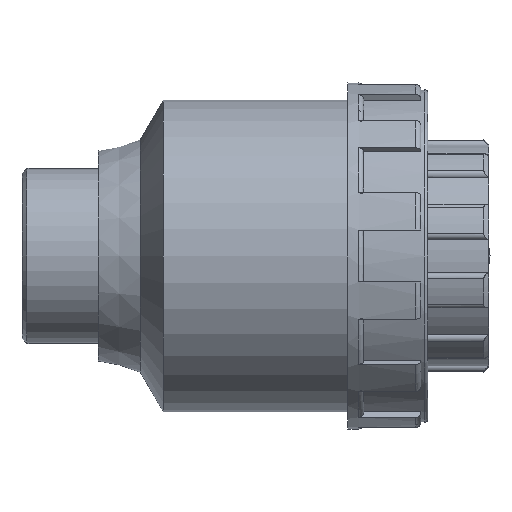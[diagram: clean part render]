
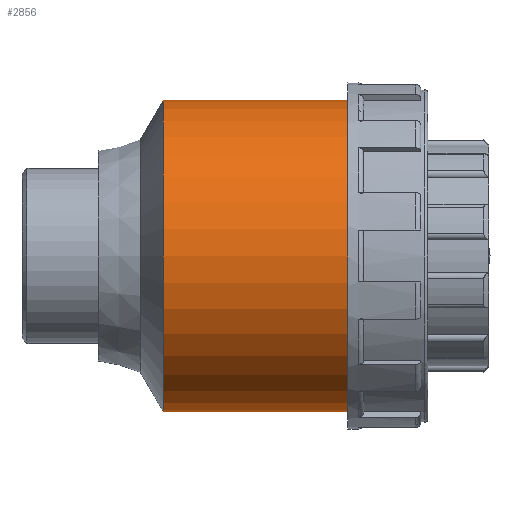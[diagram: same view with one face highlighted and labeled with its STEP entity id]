
A CAD part, front view. The second image highlights one B-rep face of the part: STEP entity #2856.
In plain terms, the highlighted cylindrical face has radius 53.1 mm (diameter 106.2 mm), a full revolution.
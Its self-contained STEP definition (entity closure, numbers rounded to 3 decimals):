
#35=FACE_BOUND('',#506,.T.);
#36=FACE_BOUND('',#507,.T.);
#317=FACE_OUTER_BOUND('',#505,.T.);
#505=EDGE_LOOP('',(#2627));
#506=EDGE_LOOP('',(#2628));
#507=EDGE_LOOP('',(#2629));
#699=CIRCLE('',#3209,53.1);
#700=CIRCLE('',#3211,53.1);
#1051=B_SPLINE_CURVE_WITH_KNOTS('',3,(#4692,#4693,#4694,#4695,#4696,#4697,
#4698,#4699,#4700,#4701,#4702,#4703,#4704,#4705,#4706,#4707,#4708,#4709,
#4710,#4711,#4712,#4713,#4714,#4715,#4716,#4717,#4718,#4719,#4720,#4721,
#4722,#4723,#4724,#4725,#4726,#4727,#4728,#4729,#4730,#4731,#4732,#4733,
#4734,#4735,#4736,#4737,#4738,#4739,#4740,#4741,#4742,#4743,#4744,#4745,
#4746,#4747,#4748,#4749,#4750,#4751,#4752,#4753,#4754,#4755,#4756,#4757),
 .UNSPECIFIED.,.T.,.F.,(4,2,2,2,2,2,2,2,2,2,2,2,2,2,2,2,2,2,2,2,2,2,2,2,
2,2,2,2,2,2,2,2,4),(0.,0.336,0.672,1.009,
1.345,1.681,2.017,2.353,2.689,
3.025,3.362,3.698,4.034,4.37,
4.706,5.042,5.379,5.715,6.051,
6.387,6.724,7.06,7.396,7.732,
8.068,8.404,8.74,9.076,9.412,
9.749,10.085,10.421,10.757),
 .UNSPECIFIED.);
#1215=VERTEX_POINT('',#4691);
#1374=VERTEX_POINT('',#5665);
#1375=VERTEX_POINT('',#5668);
#1563=EDGE_CURVE('',#1215,#1215,#1051,.T.);
#1794=EDGE_CURVE('',#1374,#1374,#699,.T.);
#1795=EDGE_CURVE('',#1375,#1375,#700,.T.);
#2627=ORIENTED_EDGE('',*,*,#1795,.F.);
#2628=ORIENTED_EDGE('',*,*,#1563,.T.);
#2629=ORIENTED_EDGE('',*,*,#1794,.T.);
#2691=CYLINDRICAL_SURFACE('',#3210,53.1);
#2856=ADVANCED_FACE('',(#317,#35,#36),#2691,.T.);
#3209=AXIS2_PLACEMENT_3D('',#5666,#4076,#4077);
#3210=AXIS2_PLACEMENT_3D('',#5667,#4078,#4079);
#3211=AXIS2_PLACEMENT_3D('',#5669,#4080,#4081);
#4076=DIRECTION('center_axis',(1.,0.,0.));
#4077=DIRECTION('ref_axis',(0.,0.,-1.));
#4078=DIRECTION('center_axis',(1.,0.,0.));
#4079=DIRECTION('ref_axis',(0.,1.,0.));
#4080=DIRECTION('center_axis',(1.,0.,0.));
#4081=DIRECTION('ref_axis',(0.,0.,-1.));
#4691=CARTESIAN_POINT('',(0.,50.063,-17.7));
#4692=CARTESIAN_POINT('Ctrl Pts',(0.,50.063,-17.7));
#4693=CARTESIAN_POINT('Ctrl Pts',(1.121,50.063,-17.7));
#4694=CARTESIAN_POINT('Ctrl Pts',(2.277,50.102,-17.592));
#4695=CARTESIAN_POINT('Ctrl Pts',(4.571,50.258,-17.14));
#4696=CARTESIAN_POINT('Ctrl Pts',(5.709,50.376,-16.796));
#4697=CARTESIAN_POINT('Ctrl Pts',(7.886,50.669,-15.89));
#4698=CARTESIAN_POINT('Ctrl Pts',(8.928,50.844,-15.327));
#4699=CARTESIAN_POINT('Ctrl Pts',(10.852,51.217,-14.031));
#4700=CARTESIAN_POINT('Ctrl Pts',(11.735,51.414,-13.297));
#4701=CARTESIAN_POINT('Ctrl Pts',(13.297,51.793,-11.735));
#4702=CARTESIAN_POINT('Ctrl Pts',(14.031,51.988,-10.853));
#4703=CARTESIAN_POINT('Ctrl Pts',(15.327,52.353,-8.928));
#4704=CARTESIAN_POINT('Ctrl Pts',(15.89,52.523,-7.886));
#4705=CARTESIAN_POINT('Ctrl Pts',(16.796,52.804,-5.708));
#4706=CARTESIAN_POINT('Ctrl Pts',(17.14,52.915,-4.57));
#4707=CARTESIAN_POINT('Ctrl Pts',(17.592,53.064,-2.276));
#4708=CARTESIAN_POINT('Ctrl Pts',(17.7,53.1,-1.12));
#4709=CARTESIAN_POINT('Ctrl Pts',(17.7,53.1,1.12));
#4710=CARTESIAN_POINT('Ctrl Pts',(17.592,53.064,2.276));
#4711=CARTESIAN_POINT('Ctrl Pts',(17.14,52.915,4.57));
#4712=CARTESIAN_POINT('Ctrl Pts',(16.796,52.804,5.708));
#4713=CARTESIAN_POINT('Ctrl Pts',(15.89,52.523,7.886));
#4714=CARTESIAN_POINT('Ctrl Pts',(15.327,52.353,8.928));
#4715=CARTESIAN_POINT('Ctrl Pts',(14.031,51.988,10.853));
#4716=CARTESIAN_POINT('Ctrl Pts',(13.297,51.793,11.735));
#4717=CARTESIAN_POINT('Ctrl Pts',(11.735,51.414,13.297));
#4718=CARTESIAN_POINT('Ctrl Pts',(10.852,51.217,14.031));
#4719=CARTESIAN_POINT('Ctrl Pts',(8.928,50.844,15.327));
#4720=CARTESIAN_POINT('Ctrl Pts',(7.886,50.669,15.89));
#4721=CARTESIAN_POINT('Ctrl Pts',(5.709,50.376,16.796));
#4722=CARTESIAN_POINT('Ctrl Pts',(4.571,50.258,17.14));
#4723=CARTESIAN_POINT('Ctrl Pts',(2.277,50.102,17.592));
#4724=CARTESIAN_POINT('Ctrl Pts',(1.121,50.063,17.7));
#4725=CARTESIAN_POINT('Ctrl Pts',(-1.121,50.063,17.7));
#4726=CARTESIAN_POINT('Ctrl Pts',(-2.277,50.102,17.592));
#4727=CARTESIAN_POINT('Ctrl Pts',(-4.571,50.258,17.14));
#4728=CARTESIAN_POINT('Ctrl Pts',(-5.709,50.376,16.796));
#4729=CARTESIAN_POINT('Ctrl Pts',(-7.886,50.669,15.89));
#4730=CARTESIAN_POINT('Ctrl Pts',(-8.928,50.844,15.327));
#4731=CARTESIAN_POINT('Ctrl Pts',(-10.852,51.217,14.031));
#4732=CARTESIAN_POINT('Ctrl Pts',(-11.735,51.414,13.297));
#4733=CARTESIAN_POINT('Ctrl Pts',(-13.297,51.793,11.735));
#4734=CARTESIAN_POINT('Ctrl Pts',(-14.031,51.988,10.853));
#4735=CARTESIAN_POINT('Ctrl Pts',(-15.327,52.353,8.928));
#4736=CARTESIAN_POINT('Ctrl Pts',(-15.89,52.523,7.886));
#4737=CARTESIAN_POINT('Ctrl Pts',(-16.796,52.804,5.708));
#4738=CARTESIAN_POINT('Ctrl Pts',(-17.14,52.915,4.57));
#4739=CARTESIAN_POINT('Ctrl Pts',(-17.592,53.064,2.276));
#4740=CARTESIAN_POINT('Ctrl Pts',(-17.7,53.1,1.12));
#4741=CARTESIAN_POINT('Ctrl Pts',(-17.7,53.1,-1.12));
#4742=CARTESIAN_POINT('Ctrl Pts',(-17.592,53.064,-2.276));
#4743=CARTESIAN_POINT('Ctrl Pts',(-17.14,52.915,-4.57));
#4744=CARTESIAN_POINT('Ctrl Pts',(-16.796,52.804,-5.708));
#4745=CARTESIAN_POINT('Ctrl Pts',(-15.89,52.523,-7.886));
#4746=CARTESIAN_POINT('Ctrl Pts',(-15.327,52.353,-8.928));
#4747=CARTESIAN_POINT('Ctrl Pts',(-14.031,51.988,-10.853));
#4748=CARTESIAN_POINT('Ctrl Pts',(-13.297,51.793,-11.735));
#4749=CARTESIAN_POINT('Ctrl Pts',(-11.735,51.414,-13.297));
#4750=CARTESIAN_POINT('Ctrl Pts',(-10.852,51.217,-14.031));
#4751=CARTESIAN_POINT('Ctrl Pts',(-8.928,50.844,-15.327));
#4752=CARTESIAN_POINT('Ctrl Pts',(-7.886,50.669,-15.89));
#4753=CARTESIAN_POINT('Ctrl Pts',(-5.709,50.376,-16.796));
#4754=CARTESIAN_POINT('Ctrl Pts',(-4.571,50.258,-17.14));
#4755=CARTESIAN_POINT('Ctrl Pts',(-2.277,50.102,-17.592));
#4756=CARTESIAN_POINT('Ctrl Pts',(-1.121,50.063,-17.7));
#4757=CARTESIAN_POINT('Ctrl Pts',(0.,50.063,
-17.7));
#5665=CARTESIAN_POINT('',(-31.4,53.1,0.));
#5666=CARTESIAN_POINT('Origin',(-31.4,0.,0.));
#5667=CARTESIAN_POINT('Origin',(0.,0.,0.));
#5668=CARTESIAN_POINT('',(31.4,53.1,0.));
#5669=CARTESIAN_POINT('Origin',(31.4,0.,0.));
